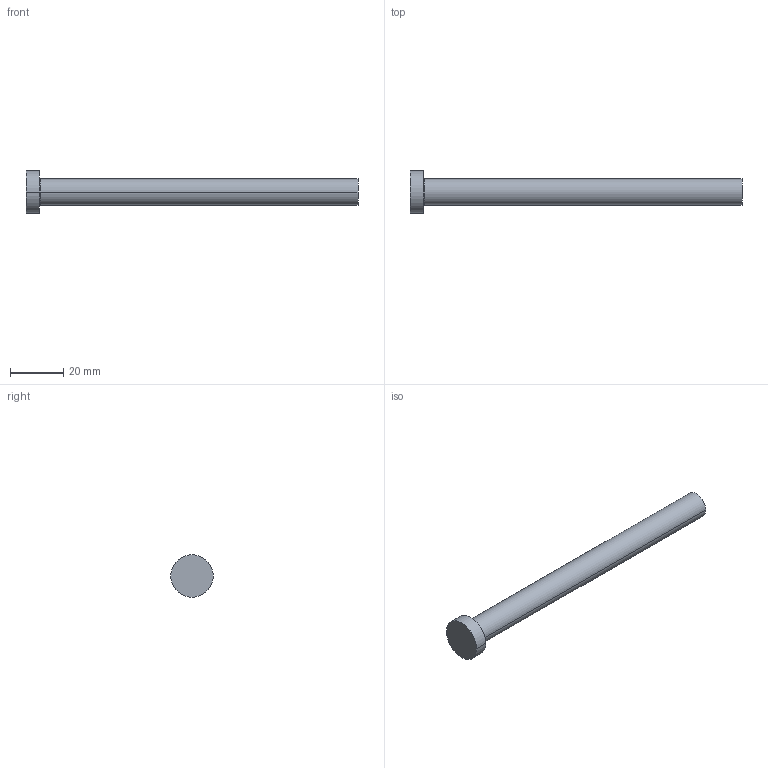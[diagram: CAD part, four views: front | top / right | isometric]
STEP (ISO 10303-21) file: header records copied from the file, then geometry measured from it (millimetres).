
FILE_DESCRIPTION (( 'STEP AP214' ), '1' );
FILE_NAME ('A-10x125.STEP', '2020-05-29T16:01:58', ( 'August' ), ( '' ), 'SwSTEP 2.0', 'SolidWorks 2018', '' );
FILE_SCHEMA (( 'AUTOMOTIVE_DESIGN' ));
Length unit declared in the file: millimetre
Products named in the file (1): A-10x125
Bounding box: 125 x 16 x 16 mm (x, y, z)
Volume: 10431.8 mm3; surface area: 4416.7 mm2
Topology: 1 solids, 1 shells, 9 faces, 16 edges, 10 vertices
Faces by surface type: cylinder 4, plane 3, torus 2
Entity records: 260 total; most frequent: DIRECTION 48, CARTESIAN_POINT 36, ORIENTED_EDGE 32, AXIS2_PLACEMENT_3D 22, EDGE_CURVE 16, CIRCLE 12, EDGE_LOOP 10, VERTEX_POINT 10
